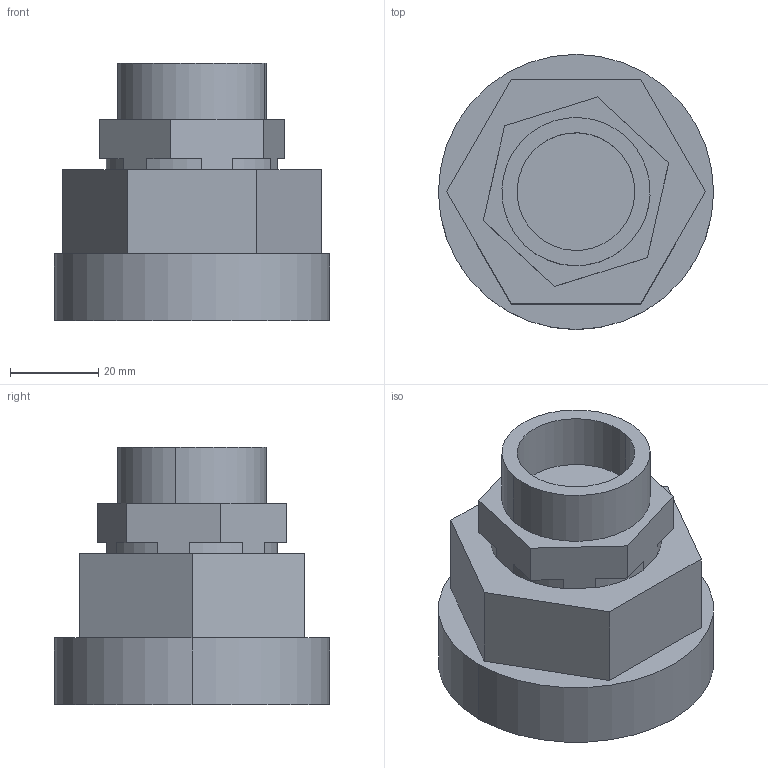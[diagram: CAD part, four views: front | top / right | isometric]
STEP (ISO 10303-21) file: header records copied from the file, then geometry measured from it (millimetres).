
FILE_DESCRIPTION (( 'STEP AP214' ), '1' );
FILE_NAME ('16-weldable-top-out.STEP', '2012-12-03T22:55:36', ( '' ), ( '' ), 'SwSTEP 2.0', 'SolidWorks 2012', '' );
FILE_SCHEMA (( 'AUTOMOTIVE_DESIGN' ));
Length unit declared in the file: inch
Products named in the file (1): 16-weldable-top-out
Bounding box: 62.33 x 62.33 x 58.29 mm (x, y, z)
Volume: 107042.6 mm3; surface area: 16473.8 mm2
Topology: 1 solids, 1 shells, 36 faces, 90 edges, 60 vertices
Faces by surface type: plane 24, cylinder 12
Entity records: 1261 total; most frequent: DIRECTION 188, CARTESIAN_POINT 187, ORIENTED_EDGE 180, EDGE_CURVE 90, LINE 66, VECTOR 66, AXIS2_PLACEMENT_3D 61, VERTEX_POINT 60
